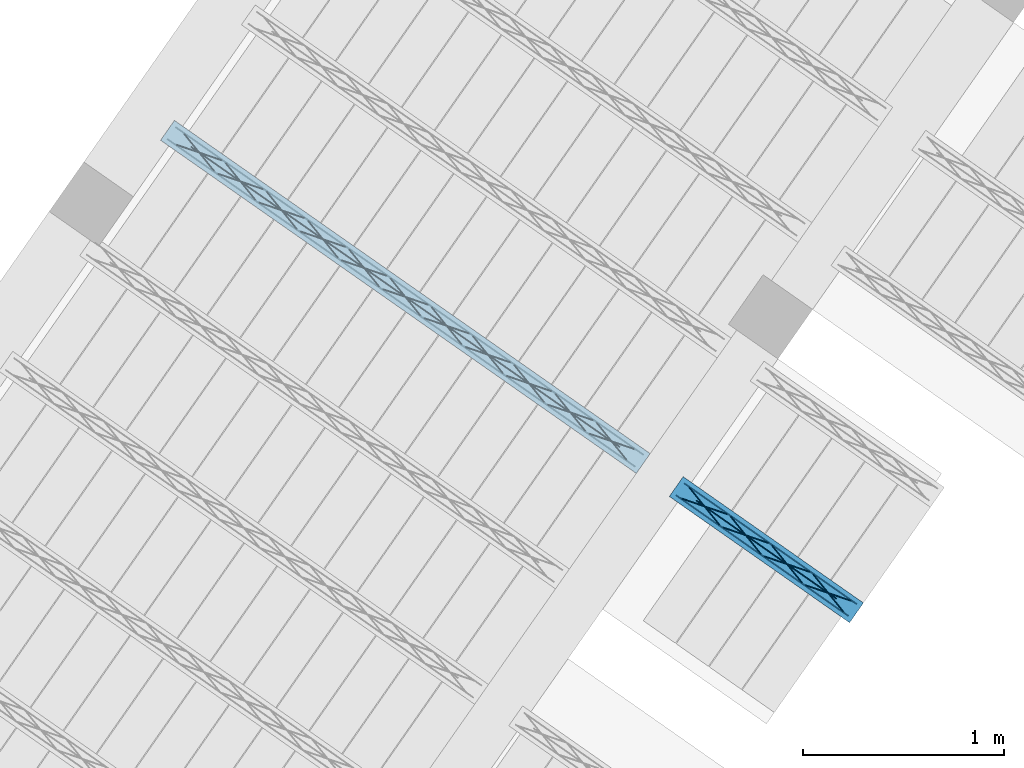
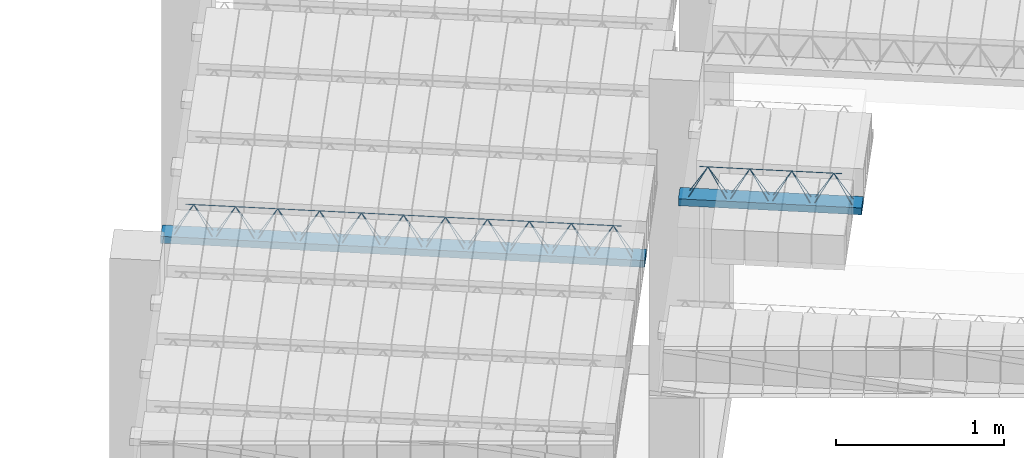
# One storey, part 35 of 80: 3 beams, 1 member.
"""IFC2X3 building model written with IfcOpenShell, lengths in metres."""

from ifc_helpers import new_model, entity, si_unit, converted_unit, derived_unit, direction, frame, frame_2d, origin, origin_2d_with_axis, place, context, subcontext, project, spatial, rectangle, circle, extrude, material, type_object, element, save


model = new_model("IFC2X3")

# Units and contexts
model_context = context("Model", 3, precision=1e-05, world=origin(), true_north=direction((6.123031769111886e-17, 1.0)))
body_context = subcontext(model_context, "Body", "Model", "MODEL_VIEW")
ifc_project = project(units=[si_unit("LENGTHUNIT", "METRE"), si_unit("AREAUNIT", "SQUARE_METRE"), si_unit("VOLUMEUNIT", "CUBIC_METRE"), converted_unit("PLANEANGLEUNIT", "DEGREE", entity("IfcPlaneAngleMeasure", 0.017453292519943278), si_unit("PLANEANGLEUNIT", "RADIAN"), dimensions=[0, 0, 0, 0, 0, 0, 0]), si_unit("MASSUNIT", "GRAM", prefix="KILO"), derived_unit("MASSDENSITYUNIT", [(si_unit("MASSUNIT", "GRAM", prefix="KILO"), 1), (si_unit("LENGTHUNIT", "METRE"), -3)]), derived_unit("IONCONCENTRATIONUNIT", [(si_unit("MASSUNIT", "GRAM", prefix="KILO"), 1), (si_unit("LENGTHUNIT", "METRE"), -3)]), derived_unit("MOMENTOFINERTIAUNIT", [(si_unit("LENGTHUNIT", "METRE"), 4)]), si_unit("TIMEUNIT", "SECOND"), si_unit("FREQUENCYUNIT", "HERTZ"), si_unit("THERMODYNAMICTEMPERATUREUNIT", "DEGREE_CELSIUS"), derived_unit("THERMALTRANSMITTANCEUNIT", [(si_unit("MASSUNIT", "GRAM", prefix="KILO"), 1), (si_unit("THERMODYNAMICTEMPERATUREUNIT", "KELVIN"), -1), (si_unit("TIMEUNIT", "SECOND"), -3)]), derived_unit("THERMALCONDUCTANCEUNIT", [(si_unit("MASSUNIT", "GRAM", prefix="KILO"), 1), (si_unit("THERMODYNAMICTEMPERATUREUNIT", "KELVIN"), -1), (si_unit("TIMEUNIT", "SECOND"), -3), (si_unit("LENGTHUNIT", "METRE"), 1)]), derived_unit("VOLUMETRICFLOWRATEUNIT", [(si_unit("LENGTHUNIT", "METRE", prefix="DECI"), 3), (si_unit("TIMEUNIT", "SECOND"), -1)]), derived_unit("MASSFLOWRATEUNIT", [(si_unit("MASSUNIT", "GRAM", prefix="KILO"), 1), (si_unit("TIMEUNIT", "SECOND"), -1)]), derived_unit("ROTATIONALFREQUENCYUNIT", [(si_unit("TIMEUNIT", "SECOND"), -1)]), si_unit("ELECTRICCURRENTUNIT", "AMPERE"), si_unit("ELECTRICVOLTAGEUNIT", "VOLT"), si_unit("POWERUNIT", "WATT"), si_unit("FORCEUNIT", "NEWTON", prefix="KILO"), si_unit("ILLUMINANCEUNIT", "LUX"), si_unit("LUMINOUSFLUXUNIT", "LUMEN"), si_unit("LUMINOUSINTENSITYUNIT", "CANDELA"), si_unit("ENERGYUNIT", "JOULE"), derived_unit("USERDEFINED", [(si_unit("MASSUNIT", "GRAM", prefix="KILO"), -1), (si_unit("LENGTHUNIT", "METRE"), -2), (si_unit("TIMEUNIT", "SECOND"), 3), (si_unit("LUMINOUSFLUXUNIT", "LUMEN"), 1)]), derived_unit("USERDEFINED", [(si_unit("MASSUNIT", "GRAM", prefix="KILO"), 1), (si_unit("TIMEUNIT", "SECOND"), -3), (si_unit("LENGTHUNIT", "METRE"), 3), (si_unit("ELECTRICCURRENTUNIT", "AMPERE"), -2)]), derived_unit("SOUNDPOWERUNIT", [(si_unit("MASSUNIT", "GRAM", prefix="KILO"), 1), (si_unit("TIMEUNIT", "SECOND"), -3), (si_unit("LENGTHUNIT", "METRE"), 2)]), derived_unit("SOUNDPRESSUREUNIT", [(si_unit("MASSUNIT", "GRAM", prefix="KILO"), 1), (si_unit("LENGTHUNIT", "METRE"), -1), (si_unit("TIMEUNIT", "SECOND"), -2)]), derived_unit("LINEARVELOCITYUNIT", [(si_unit("LENGTHUNIT", "METRE"), 1), (si_unit("TIMEUNIT", "SECOND"), -1)]), si_unit("PRESSUREUNIT", "PASCAL"), derived_unit("USERDEFINED", [(si_unit("MASSUNIT", "GRAM", prefix="KILO"), 1), (si_unit("LENGTHUNIT", "METRE"), -2), (si_unit("TIMEUNIT", "SECOND"), -2)]), derived_unit("LINEARFORCEUNIT", [(si_unit("MASSUNIT", "GRAM", prefix="KILO"), 1), (si_unit("TIMEUNIT", "SECOND"), -2)]), derived_unit("PLANARFORCEUNIT", [(si_unit("MASSUNIT", "GRAM", prefix="KILO"), 1), (si_unit("LENGTHUNIT", "METRE"), -1), (si_unit("TIMEUNIT", "SECOND"), -2)]), derived_unit("SPECIFICHEATCAPACITYUNIT", [(si_unit("THERMODYNAMICTEMPERATUREUNIT", "KELVIN"), -1), (si_unit("LENGTHUNIT", "METRE"), 2), (si_unit("TIMEUNIT", "SECOND"), -2)]), derived_unit("HEATFLUXDENSITYUNIT", [(si_unit("MASSUNIT", "GRAM", prefix="KILO"), 1), (si_unit("TIMEUNIT", "SECOND"), -3)]), derived_unit("HEATINGVALUEUNIT", [(si_unit("LENGTHUNIT", "METRE"), 2), (si_unit("TIMEUNIT", "SECOND"), -2)]), derived_unit("VAPORPERMEABILITYUNIT", [(si_unit("LENGTHUNIT", "METRE"), -1), (si_unit("TIMEUNIT", "SECOND"), 1)]), derived_unit("DYNAMICVISCOSITYUNIT", [(si_unit("MASSUNIT", "GRAM", prefix="KILO"), 1), (si_unit("TIMEUNIT", "SECOND"), -1), (si_unit("LENGTHUNIT", "METRE"), -1)]), derived_unit("THERMALEXPANSIONCOEFFICIENTUNIT", [(si_unit("THERMODYNAMICTEMPERATUREUNIT", "KELVIN"), -1)]), derived_unit("MODULUSOFELASTICITYUNIT", [(si_unit("MASSUNIT", "GRAM", prefix="KILO"), 1), (si_unit("LENGTHUNIT", "METRE"), -1), (si_unit("TIMEUNIT", "SECOND"), -2)]), derived_unit("ISOTHERMALMOISTURECAPACITYUNIT", [(si_unit("MASSUNIT", "GRAM", prefix="KILO"), -1), (si_unit("LENGTHUNIT", "METRE"), 3)]), derived_unit("MOISTUREDIFFUSIVITYUNIT", [(si_unit("TIMEUNIT", "SECOND"), -1), (si_unit("LENGTHUNIT", "METRE"), 2)]), derived_unit("MASSPERLENGTHUNIT", [(si_unit("MASSUNIT", "GRAM", prefix="KILO"), 1), (si_unit("LENGTHUNIT", "METRE"), -1)]), derived_unit("THERMALRESISTANCEUNIT", [(si_unit("MASSUNIT", "GRAM", prefix="KILO"), -1), (si_unit("TIMEUNIT", "SECOND"), 3), (si_unit("THERMODYNAMICTEMPERATUREUNIT", "KELVIN"), 1)]), derived_unit("ACCELERATIONUNIT", [(si_unit("LENGTHUNIT", "METRE"), 1), (si_unit("TIMEUNIT", "SECOND"), -2)]), derived_unit("ANGULARVELOCITYUNIT", [(si_unit("TIMEUNIT", "SECOND"), -1), (si_unit("PLANEANGLEUNIT", "RADIAN"), 1)]), derived_unit("LINEARSTIFFNESSUNIT", [(si_unit("MASSUNIT", "GRAM", prefix="KILO"), 1), (si_unit("TIMEUNIT", "SECOND"), -2)]), derived_unit("WARPINGCONSTANTUNIT", [(si_unit("LENGTHUNIT", "METRE"), 6)]), derived_unit("LINEARMOMENTUNIT", [(si_unit("MASSUNIT", "GRAM", prefix="KILO"), 1), (si_unit("LENGTHUNIT", "METRE"), 1), (si_unit("TIMEUNIT", "SECOND"), -2)]), derived_unit("TORQUEUNIT", [(si_unit("MASSUNIT", "GRAM", prefix="KILO"), 1), (si_unit("LENGTHUNIT", "METRE"), 2), (si_unit("TIMEUNIT", "SECOND"), -2)])], contexts=[model_context])

# Site, building, storey
site_placement = place(None, origin())
site = spatial("IfcSite", under=ifc_project, at=site_placement, Name="Default", CompositionType="ELEMENT")
building_placement = place(site_placement, origin())
building = spatial("IfcBuilding", under=site, at=building_placement, CompositionType="ELEMENT")
storey_placement = place(building_placement, frame((0.0, 0.0, 95.94)))
storey = spatial("IfcBuildingStorey", under=building, at=storey_placement, Name="PB", CompositionType="ELEMENT", Elevation=95.94)

# Beam
beam_type_1 = type_object("IfcBeamType", Name="Vigueta 11 (Paño 2) (Mf = 10.8)", PredefinedType="JOIST")
beam_1_placement = place(storey_placement, origin())
element("IfcBeam", 1, at=beam_1_placement, inside=storey, type_object=beam_type_1, Name="Vigueta 11 (Paño 2) (Mf = 10.8)", ObjectType="Mf = 10.8", context=body_context, shape_type="SweptSolid", body=[
    extrude(rectangle(XDim=2.8844267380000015, YDim=0.12000000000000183, at=frame_2d((-2.220446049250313e-16, -1.3565537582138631e-15), x_axis=(1.0, 0.0))), frame((4.016453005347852, 7.625616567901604, 2.82), z_axis=(0.0, 0.0, 1.0), x_axis=(0.8191520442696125, -0.5735764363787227, 0.0)), (0.0, 0.0, 1.0), 0.0499999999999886),
    extrude(circle(Radius=0.0025, at=origin_2d_with_axis()), frame((5.157536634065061, 6.782673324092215, 2.8449999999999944), z_axis=(-0.8191520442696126, 0.5735764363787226, 0.0), x_axis=(-0.5735764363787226, -0.8191520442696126, 0.0)), (0.0, 0.0, 1.0), 2.8364267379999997),
    extrude(circle(Radius=0.0025, at=origin_2d_with_axis()), frame((2.9515553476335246, 8.371265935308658, 3.069999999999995), z_axis=(0.8191520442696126, -0.5735764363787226, 0.0), x_axis=(-0.5735764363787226, -0.8191520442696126, 0.0)), (0.0, 0.0, 1.0), 2.599999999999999),
    extrude(circle(Radius=0.0025, at=origin_2d_with_axis()), frame((5.122138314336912, 6.807459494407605, 2.8449999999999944), z_axis=(-0.3145304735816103, 0.389334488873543, 0.8657304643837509), x_axis=(-0.7778747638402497, -0.6284193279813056, 0.0)), (0.0, 0.0, 1.0), 0.2598961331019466),
    extrude(circle(Radius=0.0025, at=origin_2d_with_axis()), frame((4.917350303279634, 6.950853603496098, 2.8449999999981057), z_axis=(0.47343050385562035, -0.1624017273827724, 0.8657304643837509), x_axis=(-0.3244721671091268, -0.9458952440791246, 0.0)), (0.0, 0.0, 1.0), 0.25989613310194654),
    extrude(circle(Radius=0.0025, at=origin_2d_with_axis()), frame((4.917350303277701, 6.95085360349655, 2.8449999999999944), z_axis=(-0.3145304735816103, 0.389334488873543, 0.8657304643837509), x_axis=(-0.7778747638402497, -0.6284193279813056, 0.0)), (0.0, 0.0, 1.0), 0.2598961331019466),
    extrude(circle(Radius=0.0025, at=origin_2d_with_axis()), frame((4.71256229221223, 7.0942477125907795, 2.8449999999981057), z_axis=(0.47343050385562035, -0.1624017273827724, 0.8657304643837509), x_axis=(-0.3244721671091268, -0.9458952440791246, 0.0)), (0.0, 0.0, 1.0), 0.25989613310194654),
    extrude(circle(Radius=0.0025, at=origin_2d_with_axis()), frame((4.712562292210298, 7.09424771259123, 2.8449999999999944), z_axis=(-0.3145304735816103, 0.389334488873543, 0.8657304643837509), x_axis=(-0.7778747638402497, -0.6284193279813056, 0.0)), (0.0, 0.0, 1.0), 0.2598961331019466),
    extrude(circle(Radius=0.0025, at=origin_2d_with_axis()), frame((4.507774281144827, 7.23764182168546, 2.8449999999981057), z_axis=(0.47343050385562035, -0.1624017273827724, 0.8657304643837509), x_axis=(-0.3244721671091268, -0.9458952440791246, 0.0)), (0.0, 0.0, 1.0), 0.25989613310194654),
    extrude(circle(Radius=0.0025, at=origin_2d_with_axis()), frame((4.507774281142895, 7.237641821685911, 2.8449999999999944), z_axis=(-0.3145304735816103, 0.389334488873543, 0.8657304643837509), x_axis=(-0.7778747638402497, -0.6284193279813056, 0.0)), (0.0, 0.0, 1.0), 0.2598961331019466),
    extrude(circle(Radius=0.0025, at=origin_2d_with_axis()), frame((4.302986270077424, 7.38103593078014, 2.8449999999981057), z_axis=(0.47343050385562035, -0.1624017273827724, 0.8657304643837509), x_axis=(-0.3244721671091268, -0.9458952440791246, 0.0)), (0.0, 0.0, 1.0), 0.25989613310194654),
    extrude(circle(Radius=0.0025, at=origin_2d_with_axis()), frame((4.302986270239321, 7.381035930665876, 2.8449999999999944), z_axis=(-0.3145304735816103, 0.389334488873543, 0.8657304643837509), x_axis=(-0.7778747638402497, -0.6284193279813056, 0.0)), (0.0, 0.0, 1.0), 0.2598961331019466),
    extrude(circle(Radius=0.0025, at=origin_2d_with_axis()), frame((4.098198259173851, 7.524430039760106, 2.8449999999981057), z_axis=(0.47343050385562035, -0.1624017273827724, 0.8657304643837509), x_axis=(-0.3244721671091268, -0.9458952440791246, 0.0)), (0.0, 0.0, 1.0), 0.25989613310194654),
    extrude(circle(Radius=0.0025, at=origin_2d_with_axis()), frame((4.098198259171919, 7.524430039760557, 2.8449999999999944), z_axis=(-0.3145304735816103, 0.389334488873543, 0.8657304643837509), x_axis=(-0.7778747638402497, -0.6284193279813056, 0.0)), (0.0, 0.0, 1.0), 0.2598961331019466),
    extrude(circle(Radius=0.0025, at=origin_2d_with_axis()), frame((3.893410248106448, 7.667824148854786, 2.8449999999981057), z_axis=(0.47343050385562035, -0.1624017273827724, 0.8657304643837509), x_axis=(-0.3244721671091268, -0.9458952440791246, 0.0)), (0.0, 0.0, 1.0), 0.25989613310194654),
    extrude(circle(Radius=0.0025, at=origin_2d_with_axis()), frame((3.893410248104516, 7.667824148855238, 2.8449999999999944), z_axis=(-0.3145304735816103, 0.389334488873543, 0.8657304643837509), x_axis=(-0.7778747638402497, -0.6284193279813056, 0.0)), (0.0, 0.0, 1.0), 0.2598961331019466),
    extrude(circle(Radius=0.0025, at=origin_2d_with_axis()), frame((3.688622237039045, 7.811218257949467, 2.8449999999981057), z_axis=(0.47343050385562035, -0.1624017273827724, 0.8657304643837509), x_axis=(-0.3244721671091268, -0.9458952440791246, 0.0)), (0.0, 0.0, 1.0), 0.25989613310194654),
    extrude(circle(Radius=0.0025, at=origin_2d_with_axis()), frame((3.6886222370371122, 7.811218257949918, 2.8449999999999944), z_axis=(-0.3145304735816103, 0.389334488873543, 0.8657304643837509), x_axis=(-0.7778747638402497, -0.6284193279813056, 0.0)), (0.0, 0.0, 1.0), 0.2598961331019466),
    extrude(circle(Radius=0.0025, at=origin_2d_with_axis()), frame((3.4838342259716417, 7.954612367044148, 2.8449999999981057), z_axis=(0.47343050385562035, -0.1624017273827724, 0.8657304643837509), x_axis=(-0.3244721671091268, -0.9458952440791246, 0.0)), (0.0, 0.0, 1.0), 0.25989613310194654),
    extrude(circle(Radius=0.0025, at=origin_2d_with_axis()), frame((3.483834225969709, 7.954612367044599, 2.8449999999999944), z_axis=(-0.3145304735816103, 0.389334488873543, 0.8657304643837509), x_axis=(-0.7778747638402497, -0.6284193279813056, 0.0)), (0.0, 0.0, 1.0), 0.2598961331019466),
    extrude(circle(Radius=0.0025, at=origin_2d_with_axis()), frame((3.279046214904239, 8.098006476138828, 2.8449999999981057), z_axis=(0.47343050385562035, -0.1624017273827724, 0.8657304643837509), x_axis=(-0.3244721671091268, -0.9458952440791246, 0.0)), (0.0, 0.0, 1.0), 0.25989613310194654),
    extrude(circle(Radius=0.0025, at=origin_2d_with_axis()), frame((3.2790462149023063, 8.098006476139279, 2.8449999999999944), z_axis=(-0.3145304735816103, 0.389334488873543, 0.8657304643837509), x_axis=(-0.7778747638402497, -0.6284193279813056, 0.0)), (0.0, 0.0, 1.0), 0.2598961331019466),
    extrude(circle(Radius=0.0025, at=origin_2d_with_axis()), frame((3.074258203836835, 8.24140058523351, 2.8449999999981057), z_axis=(0.47343050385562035, -0.1624017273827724, 0.8657304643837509), x_axis=(-0.3244721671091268, -0.9458952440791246, 0.0)), (0.0, 0.0, 1.0), 0.25989613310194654),
    extrude(circle(Radius=0.0025, at=origin_2d_with_axis()), frame((3.074258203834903, 8.24140058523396, 2.8449999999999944), z_axis=(-0.3145304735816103, 0.389334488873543, 0.8657304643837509), x_axis=(-0.7778747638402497, -0.6284193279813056, 0.0)), (0.0, 0.0, 1.0), 0.2598961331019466),
    extrude(circle(Radius=0.0025, at=origin_2d_with_axis()), frame((2.869470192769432, 8.384794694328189, 2.8449999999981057), z_axis=(0.47343050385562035, -0.1624017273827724, 0.8657304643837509), x_axis=(-0.3244721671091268, -0.9458952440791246, 0.0)), (0.0, 0.0, 1.0), 0.25989613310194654),
    extrude(circle(Radius=0.0025, at=origin_2d_with_axis()), frame((5.198834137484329, 6.841652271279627, 2.8449999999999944), z_axis=(-0.8191520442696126, 0.5735764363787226, 0.0), x_axis=(-0.5735764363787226, -0.8191520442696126, 0.0)), (0.0, 0.0, 1.0), 2.8364267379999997),
    extrude(circle(Radius=0.0025, at=origin_2d_with_axis()), frame((5.16343581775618, 6.866438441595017, 2.8449999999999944), z_axis=(-0.47343050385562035, 0.1624017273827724, 0.8657304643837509), x_axis=(-0.3244721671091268, -0.9458952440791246, 0.0)), (0.0, 0.0, 1.0), 0.25989613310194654),
    extrude(circle(Radius=0.0025, at=origin_2d_with_axis()), frame((4.958647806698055, 7.009832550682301, 2.8449999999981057), z_axis=(0.3145304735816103, -0.389334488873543, 0.8657304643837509), x_axis=(-0.7778747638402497, -0.6284193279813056, 0.0)), (0.0, 0.0, 1.0), 0.2598961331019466),
    extrude(circle(Radius=0.0025, at=origin_2d_with_axis()), frame((4.958647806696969, 7.009832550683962, 2.8449999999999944), z_axis=(-0.47343050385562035, 0.1624017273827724, 0.8657304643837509), x_axis=(-0.3244721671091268, -0.9458952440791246, 0.0)), (0.0, 0.0, 1.0), 0.25989613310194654),
    extrude(circle(Radius=0.0025, at=origin_2d_with_axis()), frame((4.7538597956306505, 7.153226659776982, 2.8449999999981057), z_axis=(0.3145304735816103, -0.389334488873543, 0.8657304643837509), x_axis=(-0.7778747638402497, -0.6284193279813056, 0.0)), (0.0, 0.0, 1.0), 0.2598961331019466),
    extrude(circle(Radius=0.0025, at=origin_2d_with_axis()), frame((4.753859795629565, 7.153226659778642, 2.8449999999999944), z_axis=(-0.47343050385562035, 0.1624017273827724, 0.8657304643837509), x_axis=(-0.3244721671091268, -0.9458952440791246, 0.0)), (0.0, 0.0, 1.0), 0.25989613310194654),
    extrude(circle(Radius=0.0025, at=origin_2d_with_axis()), frame((4.549071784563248, 7.296620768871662, 2.8449999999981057), z_axis=(0.3145304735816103, -0.389334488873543, 0.8657304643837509), x_axis=(-0.7778747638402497, -0.6284193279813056, 0.0)), (0.0, 0.0, 1.0), 0.2598961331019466),
    extrude(circle(Radius=0.0025, at=origin_2d_with_axis()), frame((4.549071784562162, 7.296620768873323, 2.8449999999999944), z_axis=(-0.47343050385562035, 0.1624017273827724, 0.8657304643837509), x_axis=(-0.3244721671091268, -0.9458952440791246, 0.0)), (0.0, 0.0, 1.0), 0.25989613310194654),
    extrude(circle(Radius=0.0025, at=origin_2d_with_axis()), frame((4.344283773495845, 7.440014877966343, 2.8449999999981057), z_axis=(0.3145304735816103, -0.389334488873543, 0.8657304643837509), x_axis=(-0.7778747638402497, -0.6284193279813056, 0.0)), (0.0, 0.0, 1.0), 0.2598961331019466),
    extrude(circle(Radius=0.0025, at=origin_2d_with_axis()), frame((4.3442837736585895, 7.4400148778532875, 2.8449999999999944), z_axis=(-0.47343050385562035, 0.1624017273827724, 0.8657304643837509), x_axis=(-0.3244721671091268, -0.9458952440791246, 0.0)), (0.0, 0.0, 1.0), 0.25989613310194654),
    extrude(circle(Radius=0.0025, at=origin_2d_with_axis()), frame((4.139495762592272, 7.583408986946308, 2.8449999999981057), z_axis=(0.3145304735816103, -0.389334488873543, 0.8657304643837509), x_axis=(-0.7778747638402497, -0.6284193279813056, 0.0)), (0.0, 0.0, 1.0), 0.2598961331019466),
    extrude(circle(Radius=0.0025, at=origin_2d_with_axis()), frame((4.139495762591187, 7.583408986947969, 2.8449999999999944), z_axis=(-0.47343050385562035, 0.1624017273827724, 0.8657304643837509), x_axis=(-0.3244721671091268, -0.9458952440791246, 0.0)), (0.0, 0.0, 1.0), 0.25989613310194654),
    extrude(circle(Radius=0.0025, at=origin_2d_with_axis()), frame((3.934707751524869, 7.726803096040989, 2.8449999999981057), z_axis=(0.3145304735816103, -0.389334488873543, 0.8657304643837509), x_axis=(-0.7778747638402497, -0.6284193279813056, 0.0)), (0.0, 0.0, 1.0), 0.2598961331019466),
    extrude(circle(Radius=0.0025, at=origin_2d_with_axis()), frame((3.9347077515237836, 7.72680309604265, 2.8449999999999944), z_axis=(-0.47343050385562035, 0.1624017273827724, 0.8657304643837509), x_axis=(-0.3244721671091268, -0.9458952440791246, 0.0)), (0.0, 0.0, 1.0), 0.25989613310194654),
    extrude(circle(Radius=0.0025, at=origin_2d_with_axis()), frame((3.7299197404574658, 7.87019720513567, 2.8449999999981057), z_axis=(0.3145304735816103, -0.389334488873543, 0.8657304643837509), x_axis=(-0.7778747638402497, -0.6284193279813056, 0.0)), (0.0, 0.0, 1.0), 0.2598961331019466),
    extrude(circle(Radius=0.0025, at=origin_2d_with_axis()), frame((3.72991974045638, 7.87019720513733, 2.8449999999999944), z_axis=(-0.47343050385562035, 0.1624017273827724, 0.8657304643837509), x_axis=(-0.3244721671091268, -0.9458952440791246, 0.0)), (0.0, 0.0, 1.0), 0.25989613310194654),
    extrude(circle(Radius=0.0025, at=origin_2d_with_axis()), frame((3.5251317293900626, 8.01359131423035, 2.8449999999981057), z_axis=(0.3145304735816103, -0.389334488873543, 0.8657304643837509), x_axis=(-0.7778747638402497, -0.6284193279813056, 0.0)), (0.0, 0.0, 1.0), 0.2598961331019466),
    extrude(circle(Radius=0.0025, at=origin_2d_with_axis()), frame((3.525131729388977, 8.013591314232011, 2.8449999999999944), z_axis=(-0.47343050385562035, 0.1624017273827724, 0.8657304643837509), x_axis=(-0.3244721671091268, -0.9458952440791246, 0.0)), (0.0, 0.0, 1.0), 0.25989613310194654),
    extrude(circle(Radius=0.0025, at=origin_2d_with_axis()), frame((3.32034371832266, 8.15698542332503, 2.8449999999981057), z_axis=(0.3145304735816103, -0.389334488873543, 0.8657304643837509), x_axis=(-0.7778747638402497, -0.6284193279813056, 0.0)), (0.0, 0.0, 1.0), 0.2598961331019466),
    extrude(circle(Radius=0.0025, at=origin_2d_with_axis()), frame((3.3203437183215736, 8.156985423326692, 2.8449999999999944), z_axis=(-0.47343050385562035, 0.1624017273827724, 0.8657304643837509), x_axis=(-0.3244721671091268, -0.9458952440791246, 0.0)), (0.0, 0.0, 1.0), 0.25989613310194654),
    extrude(circle(Radius=0.0025, at=origin_2d_with_axis()), frame((3.1155557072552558, 8.300379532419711, 2.8449999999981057), z_axis=(0.3145304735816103, -0.389334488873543, 0.8657304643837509), x_axis=(-0.7778747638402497, -0.6284193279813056, 0.0)), (0.0, 0.0, 1.0), 0.2598961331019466),
    extrude(circle(Radius=0.0025, at=origin_2d_with_axis()), frame((3.115555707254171, 8.300379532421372, 2.8449999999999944), z_axis=(-0.47343050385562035, 0.1624017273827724, 0.8657304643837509), x_axis=(-0.3244721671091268, -0.9458952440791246, 0.0)), (0.0, 0.0, 1.0), 0.25989613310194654),
    extrude(circle(Radius=0.0025, at=origin_2d_with_axis()), frame((2.910767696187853, 8.443773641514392, 2.8449999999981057), z_axis=(0.3145304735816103, -0.389334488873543, 0.8657304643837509), x_axis=(-0.7778747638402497, -0.6284193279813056, 0.0)), (0.0, 0.0, 1.0), 0.2598961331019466),
])

# Member
member_type = type_object("IfcMemberType", Name="Celosía (Vigueta 1 - Paño 8)", PredefinedType="NOTDEFINED")
member_placement = place(storey_placement, origin())
element("IfcMember", 2, at=member_placement, inside=storey, type_object=member_type, Name="Celosía (Vigueta 1 - Paño 8)", context=body_context, shape_type="SweptSolid", body=[
    extrude(circle(Radius=0.0025, at=origin_2d_with_axis()), frame((5.360686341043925, 6.640426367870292, 3.3049999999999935), z_axis=(0.8191520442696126, -0.5735764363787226, 0.0), x_axis=(-0.5735764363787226, -0.8191520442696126, 0.0)), (0.0, 0.0, 1.0), 1.044734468),
    extrude(circle(Radius=0.0025, at=origin_2d_with_axis()), frame((6.157372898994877, 6.126528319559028, 3.5299999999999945), z_axis=(-0.8191520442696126, 0.5735764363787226, 0.0), x_axis=(-0.5735764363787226, -0.8191520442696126, 0.0)), (0.0, 0.0, 1.0), 0.8499999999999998),
    extrude(circle(Radius=0.0025, at=origin_2d_with_axis()), frame((6.198160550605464, 6.054020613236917, 3.3049999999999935), z_axis=(-0.3145304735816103, 0.389334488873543, 0.8657304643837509), x_axis=(-0.7778747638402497, -0.6284193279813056, 0.0)), (0.0, 0.0, 1.0), 0.2598961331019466),
    extrude(circle(Radius=0.0025, at=origin_2d_with_axis()), frame((5.993372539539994, 6.197414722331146, 3.3049999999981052), z_axis=(0.47343050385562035, -0.1624017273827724, 0.8657304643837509), x_axis=(-0.3244721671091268, -0.9458952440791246, 0.0)), (0.0, 0.0, 1.0), 0.25989613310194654),
    extrude(circle(Radius=0.0025, at=origin_2d_with_axis()), frame((5.993372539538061, 6.1974147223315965, 3.3049999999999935), z_axis=(-0.3145304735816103, 0.389334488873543, 0.8657304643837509), x_axis=(-0.7778747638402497, -0.6284193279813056, 0.0)), (0.0, 0.0, 1.0), 0.2598961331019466),
    extrude(circle(Radius=0.0025, at=origin_2d_with_axis()), frame((5.788584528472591, 6.340808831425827, 3.3049999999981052), z_axis=(0.47343050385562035, -0.1624017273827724, 0.8657304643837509), x_axis=(-0.3244721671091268, -0.9458952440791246, 0.0)), (0.0, 0.0, 1.0), 0.25989613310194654),
    extrude(circle(Radius=0.0025, at=origin_2d_with_axis()), frame((5.788584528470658, 6.340808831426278, 3.3049999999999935), z_axis=(-0.3145304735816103, 0.389334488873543, 0.8657304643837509), x_axis=(-0.7778747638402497, -0.6284193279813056, 0.0)), (0.0, 0.0, 1.0), 0.2598961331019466),
    extrude(circle(Radius=0.0025, at=origin_2d_with_axis()), frame((5.583796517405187, 6.484202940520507, 3.3049999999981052), z_axis=(0.47343050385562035, -0.1624017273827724, 0.8657304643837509), x_axis=(-0.3244721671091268, -0.9458952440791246, 0.0)), (0.0, 0.0, 1.0), 0.25989613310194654),
    extrude(circle(Radius=0.0025, at=origin_2d_with_axis()), frame((5.583796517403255, 6.484202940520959, 3.3049999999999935), z_axis=(-0.3145304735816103, 0.389334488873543, 0.8657304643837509), x_axis=(-0.7778747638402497, -0.6284193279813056, 0.0)), (0.0, 0.0, 1.0), 0.2598961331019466),
    extrude(circle(Radius=0.0025, at=origin_2d_with_axis()), frame((5.379008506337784, 6.627597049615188, 3.3049999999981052), z_axis=(0.47343050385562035, -0.1624017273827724, 0.8657304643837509), x_axis=(-0.3244721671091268, -0.9458952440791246, 0.0)), (0.0, 0.0, 1.0), 0.25989613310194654),
    extrude(circle(Radius=0.0025, at=origin_2d_with_axis()), frame((5.401983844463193, 6.699405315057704, 3.3049999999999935), z_axis=(0.8191520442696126, -0.5735764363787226, 0.0), x_axis=(-0.5735764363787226, -0.8191520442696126, 0.0)), (0.0, 0.0, 1.0), 1.044734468),
    extrude(circle(Radius=0.0025, at=origin_2d_with_axis()), frame((6.239458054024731, 6.112999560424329, 3.3049999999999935), z_axis=(-0.47343050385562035, 0.1624017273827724, 0.8657304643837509), x_axis=(-0.3244721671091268, -0.9458952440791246, 0.0)), (0.0, 0.0, 1.0), 0.25989613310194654),
    extrude(circle(Radius=0.0025, at=origin_2d_with_axis()), frame((6.034670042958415, 6.256393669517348, 3.3049999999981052), z_axis=(0.3145304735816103, -0.389334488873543, 0.8657304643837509), x_axis=(-0.7778747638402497, -0.6284193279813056, 0.0)), (0.0, 0.0, 1.0), 0.2598961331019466),
    extrude(circle(Radius=0.0025, at=origin_2d_with_axis()), frame((6.034670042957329, 6.256393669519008, 3.3049999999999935), z_axis=(-0.47343050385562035, 0.1624017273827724, 0.8657304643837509), x_axis=(-0.3244721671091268, -0.9458952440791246, 0.0)), (0.0, 0.0, 1.0), 0.25989613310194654),
    extrude(circle(Radius=0.0025, at=origin_2d_with_axis()), frame((5.829882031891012, 6.399787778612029, 3.3049999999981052), z_axis=(0.3145304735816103, -0.389334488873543, 0.8657304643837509), x_axis=(-0.7778747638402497, -0.6284193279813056, 0.0)), (0.0, 0.0, 1.0), 0.2598961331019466),
    extrude(circle(Radius=0.0025, at=origin_2d_with_axis()), frame((5.829882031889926, 6.39978777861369, 3.3049999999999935), z_axis=(-0.47343050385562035, 0.1624017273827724, 0.8657304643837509), x_axis=(-0.3244721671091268, -0.9458952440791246, 0.0)), (0.0, 0.0, 1.0), 0.25989613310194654),
    extrude(circle(Radius=0.0025, at=origin_2d_with_axis()), frame((5.6250940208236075, 6.543181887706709, 3.3049999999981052), z_axis=(0.3145304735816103, -0.389334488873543, 0.8657304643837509), x_axis=(-0.7778747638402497, -0.6284193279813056, 0.0)), (0.0, 0.0, 1.0), 0.2598961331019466),
    extrude(circle(Radius=0.0025, at=origin_2d_with_axis()), frame((5.625094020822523, 6.5431818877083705, 3.3049999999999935), z_axis=(-0.47343050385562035, 0.1624017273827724, 0.8657304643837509), x_axis=(-0.3244721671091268, -0.9458952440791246, 0.0)), (0.0, 0.0, 1.0), 0.25989613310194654),
    extrude(circle(Radius=0.0025, at=origin_2d_with_axis()), frame((5.420306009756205, 6.68657599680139, 3.3049999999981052), z_axis=(0.3145304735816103, -0.389334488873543, 0.8657304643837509), x_axis=(-0.7778747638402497, -0.6284193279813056, 0.0)), (0.0, 0.0, 1.0), 0.2598961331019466),
])

# Beams
beam_type_2 = type_object("IfcBeamType", Name="Vigueta 1 (Paño 8) (Mf = 1.45)", PredefinedType="JOIST")
beam_2_placement = place(storey_placement, origin())
element("IfcBeam", 3, at=beam_2_placement, inside=storey, type_object=beam_type_2, Name="Vigueta 1 (Paño 8) (Mf = 1.45)", ObjectType="Mf = 1.45", context=body_context, shape_type="SweptSolid", body=[
    extrude(rectangle(XDim=1.0927344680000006, YDim=0.11999999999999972, at=origin_2d_with_axis()), frame((5.809233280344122, 6.370298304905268, 3.2799999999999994), z_axis=(0.0, 0.0, 1.0), x_axis=(0.8191520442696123, -0.5735764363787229, 0.0)), (0.0, 0.0, 1.0), 0.04999999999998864),
    extrude(circle(Radius=0.0025, at=origin_2d_with_axis()), frame((5.360686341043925, 6.640426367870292, 3.3049999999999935), z_axis=(0.8191520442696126, -0.5735764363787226, 0.0), x_axis=(-0.5735764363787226, -0.8191520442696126, 0.0)), (0.0, 0.0, 1.0), 1.044734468),
    extrude(circle(Radius=0.0025, at=origin_2d_with_axis()), frame((6.157372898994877, 6.126528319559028, 3.5299999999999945), z_axis=(-0.8191520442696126, 0.5735764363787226, 0.0), x_axis=(-0.5735764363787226, -0.8191520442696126, 0.0)), (0.0, 0.0, 1.0), 0.8499999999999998),
    extrude(circle(Radius=0.0025, at=origin_2d_with_axis()), frame((6.198160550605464, 6.054020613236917, 3.3049999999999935), z_axis=(-0.3145304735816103, 0.389334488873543, 0.8657304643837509), x_axis=(-0.7778747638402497, -0.6284193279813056, 0.0)), (0.0, 0.0, 1.0), 0.2598961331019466),
    extrude(circle(Radius=0.0025, at=origin_2d_with_axis()), frame((5.993372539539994, 6.197414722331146, 3.3049999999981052), z_axis=(0.47343050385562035, -0.1624017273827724, 0.8657304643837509), x_axis=(-0.3244721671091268, -0.9458952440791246, 0.0)), (0.0, 0.0, 1.0), 0.25989613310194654),
    extrude(circle(Radius=0.0025, at=origin_2d_with_axis()), frame((5.993372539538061, 6.1974147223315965, 3.3049999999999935), z_axis=(-0.3145304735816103, 0.389334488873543, 0.8657304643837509), x_axis=(-0.7778747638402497, -0.6284193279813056, 0.0)), (0.0, 0.0, 1.0), 0.2598961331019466),
    extrude(circle(Radius=0.0025, at=origin_2d_with_axis()), frame((5.788584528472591, 6.340808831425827, 3.3049999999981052), z_axis=(0.47343050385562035, -0.1624017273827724, 0.8657304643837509), x_axis=(-0.3244721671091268, -0.9458952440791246, 0.0)), (0.0, 0.0, 1.0), 0.25989613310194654),
    extrude(circle(Radius=0.0025, at=origin_2d_with_axis()), frame((5.788584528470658, 6.340808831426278, 3.3049999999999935), z_axis=(-0.3145304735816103, 0.389334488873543, 0.8657304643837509), x_axis=(-0.7778747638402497, -0.6284193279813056, 0.0)), (0.0, 0.0, 1.0), 0.2598961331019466),
    extrude(circle(Radius=0.0025, at=origin_2d_with_axis()), frame((5.583796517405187, 6.484202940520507, 3.3049999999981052), z_axis=(0.47343050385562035, -0.1624017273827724, 0.8657304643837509), x_axis=(-0.3244721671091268, -0.9458952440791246, 0.0)), (0.0, 0.0, 1.0), 0.25989613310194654),
    extrude(circle(Radius=0.0025, at=origin_2d_with_axis()), frame((5.583796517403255, 6.484202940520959, 3.3049999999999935), z_axis=(-0.3145304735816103, 0.389334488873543, 0.8657304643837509), x_axis=(-0.7778747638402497, -0.6284193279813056, 0.0)), (0.0, 0.0, 1.0), 0.2598961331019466),
    extrude(circle(Radius=0.0025, at=origin_2d_with_axis()), frame((5.379008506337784, 6.627597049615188, 3.3049999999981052), z_axis=(0.47343050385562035, -0.1624017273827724, 0.8657304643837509), x_axis=(-0.3244721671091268, -0.9458952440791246, 0.0)), (0.0, 0.0, 1.0), 0.25989613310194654),
    extrude(circle(Radius=0.0025, at=origin_2d_with_axis()), frame((5.401983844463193, 6.699405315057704, 3.3049999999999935), z_axis=(0.8191520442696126, -0.5735764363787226, 0.0), x_axis=(-0.5735764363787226, -0.8191520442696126, 0.0)), (0.0, 0.0, 1.0), 1.044734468),
    extrude(circle(Radius=0.0025, at=origin_2d_with_axis()), frame((6.239458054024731, 6.112999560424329, 3.3049999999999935), z_axis=(-0.47343050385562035, 0.1624017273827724, 0.8657304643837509), x_axis=(-0.3244721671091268, -0.9458952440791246, 0.0)), (0.0, 0.0, 1.0), 0.25989613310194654),
    extrude(circle(Radius=0.0025, at=origin_2d_with_axis()), frame((6.034670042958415, 6.256393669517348, 3.3049999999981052), z_axis=(0.3145304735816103, -0.389334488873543, 0.8657304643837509), x_axis=(-0.7778747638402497, -0.6284193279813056, 0.0)), (0.0, 0.0, 1.0), 0.2598961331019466),
    extrude(circle(Radius=0.0025, at=origin_2d_with_axis()), frame((6.034670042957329, 6.256393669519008, 3.3049999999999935), z_axis=(-0.47343050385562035, 0.1624017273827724, 0.8657304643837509), x_axis=(-0.3244721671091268, -0.9458952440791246, 0.0)), (0.0, 0.0, 1.0), 0.25989613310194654),
    extrude(circle(Radius=0.0025, at=origin_2d_with_axis()), frame((5.829882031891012, 6.399787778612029, 3.3049999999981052), z_axis=(0.3145304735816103, -0.389334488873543, 0.8657304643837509), x_axis=(-0.7778747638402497, -0.6284193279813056, 0.0)), (0.0, 0.0, 1.0), 0.2598961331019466),
    extrude(circle(Radius=0.0025, at=origin_2d_with_axis()), frame((5.829882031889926, 6.39978777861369, 3.3049999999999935), z_axis=(-0.47343050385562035, 0.1624017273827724, 0.8657304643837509), x_axis=(-0.3244721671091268, -0.9458952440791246, 0.0)), (0.0, 0.0, 1.0), 0.25989613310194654),
    extrude(circle(Radius=0.0025, at=origin_2d_with_axis()), frame((5.6250940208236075, 6.543181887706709, 3.3049999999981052), z_axis=(0.3145304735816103, -0.389334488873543, 0.8657304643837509), x_axis=(-0.7778747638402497, -0.6284193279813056, 0.0)), (0.0, 0.0, 1.0), 0.2598961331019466),
    extrude(circle(Radius=0.0025, at=origin_2d_with_axis()), frame((5.625094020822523, 6.5431818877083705, 3.3049999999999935), z_axis=(-0.47343050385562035, 0.1624017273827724, 0.8657304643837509), x_axis=(-0.3244721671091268, -0.9458952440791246, 0.0)), (0.0, 0.0, 1.0), 0.25989613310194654),
    extrude(circle(Radius=0.0025, at=origin_2d_with_axis()), frame((5.420306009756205, 6.68657599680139, 3.3049999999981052), z_axis=(0.3145304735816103, -0.389334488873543, 0.8657304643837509), x_axis=(-0.7778747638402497, -0.6284193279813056, 0.0)), (0.0, 0.0, 1.0), 0.2598961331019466),
])
ifc_material = material(Name="Hormigón armado")
beam_3_placement = place(storey_placement, origin())
element("IfcBeam", 4, at=beam_3_placement, inside=storey, material=ifc_material, Name="238547", context=body_context, shape_type="SweptSolid", body=[
    extrude(rectangle(XDim=0.04999999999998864, YDim=0.11999999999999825, at=frame_2d((0.0, -4.475586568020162e-16), x_axis=(1.0, 0.0))), frame((5.361675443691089, 6.6836816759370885, 3.3049999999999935), z_axis=(0.8191520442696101, -0.573576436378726, 0.0), x_axis=(0.0, 0.0, -1.0)), (0.0, 0.0, 1.0), 1.092734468),
])

save(model, "model.ifc")
